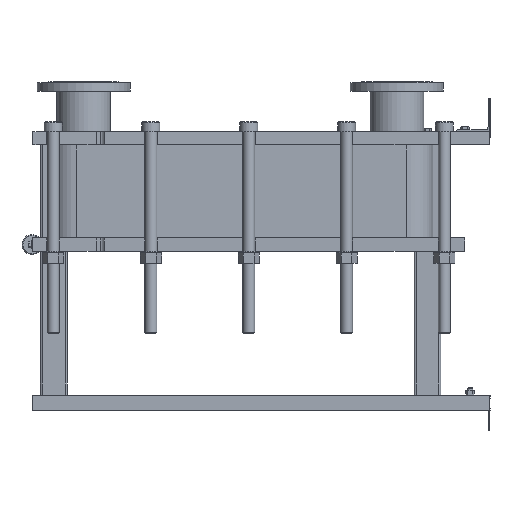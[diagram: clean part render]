
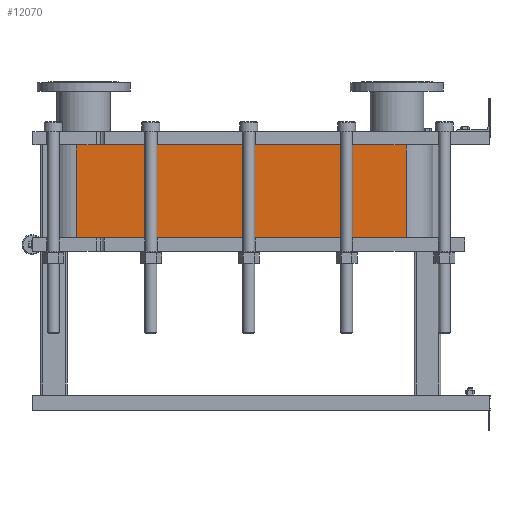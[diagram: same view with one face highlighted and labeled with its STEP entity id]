
A CAD part, left-side view. The second image highlights one B-rep face of the part: STEP entity #12070.
In plain terms, the highlighted planar face has unit normal (-1, 0, 0).
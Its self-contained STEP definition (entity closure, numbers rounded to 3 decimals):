
#1064=LINE('',#21140,#2164);
#1065=LINE('',#21144,#2165);
#1066=LINE('',#21146,#2166);
#1067=LINE('',#21147,#2167);
#2164=VECTOR('',#15790,10.);
#2165=VECTOR('',#15795,10.);
#2166=VECTOR('',#15796,10.);
#2167=VECTOR('',#15797,10.);
#3304=FACE_OUTER_BOUND('',#4091,.T.);
#4091=EDGE_LOOP('',(#9793,#9794,#9795,#9796));
#5677=VERTEX_POINT('',#21137);
#5678=VERTEX_POINT('',#21139);
#5679=VERTEX_POINT('',#21143);
#5680=VERTEX_POINT('',#21145);
#7118=EDGE_CURVE('',#5678,#5677,#1064,.T.);
#7120=EDGE_CURVE('',#5677,#5679,#1065,.T.);
#7121=EDGE_CURVE('',#5680,#5679,#1066,.T.);
#7122=EDGE_CURVE('',#5680,#5678,#1067,.T.);
#9793=ORIENTED_EDGE('',*,*,#7120,.T.);
#9794=ORIENTED_EDGE('',*,*,#7121,.F.);
#9795=ORIENTED_EDGE('',*,*,#7122,.T.);
#9796=ORIENTED_EDGE('',*,*,#7118,.T.);
#11441=PLANE('',#13191);
#12070=ADVANCED_FACE('',(#3304),#11441,.T.);
#13191=AXIS2_PLACEMENT_3D('',#21142,#15793,#15794);
#15790=DIRECTION('',(0.,0.,-1.));
#15793=DIRECTION('center_axis',(-1.,0.,0.));
#15794=DIRECTION('ref_axis',(0.,1.,0.));
#15795=DIRECTION('',(0.,-1.,0.));
#15796=DIRECTION('',(0.,0.,-1.));
#15797=DIRECTION('',(0.,1.,0.));
#21137=CARTESIAN_POINT('',(-248.152,1243.818,-279.45));
#21139=CARTESIAN_POINT('',(-248.152,1243.818,0.));
#21140=CARTESIAN_POINT('',(-248.152,1243.818,0.));
#21142=CARTESIAN_POINT('Origin',(-248.152,251.818,0.));
#21143=CARTESIAN_POINT('',(-248.152,251.818,-279.45));
#21144=CARTESIAN_POINT('',(-248.152,499.818,-279.45));
#21145=CARTESIAN_POINT('',(-248.152,251.818,0.));
#21146=CARTESIAN_POINT('',(-248.152,251.818,0.));
#21147=CARTESIAN_POINT('',(-248.152,251.818,0.));
